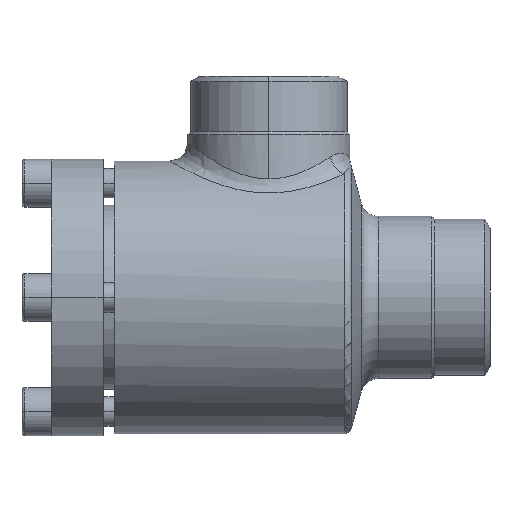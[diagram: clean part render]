
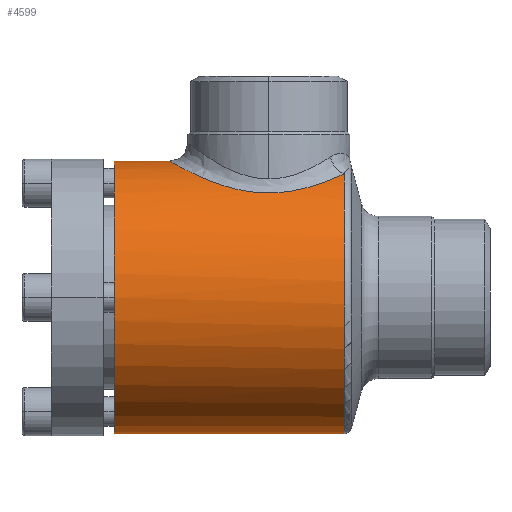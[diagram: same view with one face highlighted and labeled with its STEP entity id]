
A CAD part, left-side view. The second image highlights one B-rep face of the part: STEP entity #4599.
In plain terms, the highlighted cylindrical face has radius 37 mm (diameter 74 mm), a partial arc.
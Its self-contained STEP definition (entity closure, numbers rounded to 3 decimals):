
#670 = VERTEX_POINT ( 'NONE', #5043 ) ;
#1827 = VERTEX_POINT ( 'NONE', #3505 ) ;
#2028 = EDGE_CURVE ( 'NONE', #6871, #1827, #3735, .T. ) ;
#3195 = EDGE_CURVE ( 'NONE', #1827, #670, #5442, .T. ) ;
#3349 = ORIENTED_EDGE ( 'NONE', *, *, #3195, .F. ) ;
#3482 = CARTESIAN_POINT ( 'NONE',  ( 0., -15., 37. ) ) ;
#3505 = CARTESIAN_POINT ( 'NONE',  ( 0., 0., -37. ) ) ;
#3721 = LINE ( 'NONE', #3722, #3723 ) ;
#3722 = CARTESIAN_POINT ( 'NONE',  ( 0., -68., 37. ) ) ;
#3723 = VECTOR ( 'NONE', #3724, 1000. ) ;
#3724 = DIRECTION ( 'NONE',  ( 0., 1., 0. ) ) ;
#3735 = LINE ( 'NONE', #3736, #3737 ) ;
#3736 = CARTESIAN_POINT ( 'NONE',  ( 0., -68., -37. ) ) ;
#3737 = VECTOR ( 'NONE', #3738, 1000. ) ;
#3738 = DIRECTION ( 'NONE',  ( 0., 1., 0. ) ) ;
#3820 = ORIENTED_EDGE ( 'NONE', *, *, #12464, .T. ) ;
#3847 = B_SPLINE_CURVE_WITH_KNOTS ( 'NONE', 3,
 ( #3848, #3849, #3850, #3851, #3852, #3855, #3856, #3857, #3858, #3859, #3860, #3861, #3862, #3863, #3864, #3865, #3866, #3867, #3868, #3869, #3870, #3872, #3873, #3874, #3875, #3876, #3877, #3878, #3879, #3880, #3881, #3882, #3883, #3884, #3885, #3886, #3887, #3888, #3889, #3890, #3891, #3892, #3893, #3894, #3895, #3896, #3897, #3898 ),
 .UNSPECIFIED., .F., .F.,
 ( 4, 2, 2, 2, 2, 2, 2, 2, 2, 2, 2, 2, 2, 2, 2, 2, 2, 2, 2, 2, 2, 2, 2, 4 ),
 ( 0., 0.004, 0.008, 0.01, 0.012, 0.016, 0.018, 0.02, 0.024, 0.026, 0.028, 0.03, 0.032, 0.036, 0.04, 0.042, 0.044, 0.048, 0.05, 0.052, 0.056, 0.058, 0.06, 0.064 ),
 .UNSPECIFIED. ) ;
#3848 = CARTESIAN_POINT ( 'NONE',  ( -15.535, -62.446, 33.581 ) ) ;
#3849 = CARTESIAN_POINT ( 'NONE',  ( -16.452, -61.548, 33.157 ) ) ;
#3850 = CARTESIAN_POINT ( 'NONE',  ( -17.286, -60.594, 32.725 ) ) ;
#3851 = CARTESIAN_POINT ( 'NONE',  ( -18.811, -58.577, 31.873 ) ) ;
#3852 = CARTESIAN_POINT ( 'NONE',  ( -19.502, -57.514, 31.452 ) ) ;
#3855 = CARTESIAN_POINT ( 'NONE',  ( -20.434, -55.835, 30.848 ) ) ;
#3856 = CARTESIAN_POINT ( 'NONE',  ( -20.728, -55.259, 30.65 ) ) ;
#3857 = CARTESIAN_POINT ( 'NONE',  ( -21.277, -54.088, 30.272 ) ) ;
#3858 = CARTESIAN_POINT ( 'NONE',  ( -21.531, -53.494, 30.092 ) ) ;
#3859 = CARTESIAN_POINT ( 'NONE',  ( -22.233, -51.685, 29.581 ) ) ;
#3860 = CARTESIAN_POINT ( 'NONE',  ( -22.624, -50.442, 29.28 ) ) ;
#3861 = CARTESIAN_POINT ( 'NONE',  ( -23.09, -48.518, 28.912 ) ) ;
#3862 = CARTESIAN_POINT ( 'NONE',  ( -23.225, -47.864, 28.803 ) ) ;
#3863 = CARTESIAN_POINT ( 'NONE',  ( -23.453, -46.548, 28.618 ) ) ;
#3864 = CARTESIAN_POINT ( 'NONE',  ( -23.545, -45.887, 28.542 ) ) ;
#3865 = CARTESIAN_POINT ( 'NONE',  ( -23.756, -43.897, 28.367 ) ) ;
#3866 = CARTESIAN_POINT ( 'NONE',  ( -23.81, -42.56, 28.321 ) ) ;
#3867 = CARTESIAN_POINT ( 'NONE',  ( -23.758, -40.538, 28.365 ) ) ;
#3868 = CARTESIAN_POINT ( 'NONE',  ( -23.718, -39.862, 28.398 ) ) ;
#3869 = CARTESIAN_POINT ( 'NONE',  ( -23.596, -38.528, 28.5 ) ) ;
#3870 = CARTESIAN_POINT ( 'NONE',  ( -23.513, -37.867, 28.569 ) ) ;
#3872 = CARTESIAN_POINT ( 'NONE',  ( -23.304, -36.555, 28.739 ) ) ;
#3873 = CARTESIAN_POINT ( 'NONE',  ( -23.179, -35.905, 28.84 ) ) ;
#3874 = CARTESIAN_POINT ( 'NONE',  ( -22.886, -34.615, 29.073 ) ) ;
#3875 = CARTESIAN_POINT ( 'NONE',  ( -22.718, -33.974, 29.205 ) ) ;
#3876 = CARTESIAN_POINT ( 'NONE',  ( -22.153, -32.08, 29.639 ) ) ;
#3877 = CARTESIAN_POINT ( 'NONE',  ( -21.7, -30.866, 29.975 ) ) ;
#3878 = CARTESIAN_POINT ( 'NONE',  ( -20.645, -28.526, 30.712 ) ) ;
#3879 = CARTESIAN_POINT ( 'NONE',  ( -20.043, -27.4, 31.112 ) ) ;
#3880 = CARTESIAN_POINT ( 'NONE',  ( -19.02, -25.773, 31.74 ) ) ;
#3881 = CARTESIAN_POINT ( 'NONE',  ( -18.66, -25.243, 31.953 ) ) ;
#3882 = CARTESIAN_POINT ( 'NONE',  ( -17.908, -24.217, 32.381 ) ) ;
#3883 = CARTESIAN_POINT ( 'NONE',  ( -17.515, -23.72, 32.595 ) ) ;
#3884 = CARTESIAN_POINT ( 'NONE',  ( -16.284, -22.274, 33.237 ) ) ;
#3885 = CARTESIAN_POINT ( 'NONE',  ( -15.395, -21.372, 33.662 ) ) ;
#3886 = CARTESIAN_POINT ( 'NONE',  ( -13.943, -20.115, 34.276 ) ) ;
#3887 = CARTESIAN_POINT ( 'NONE',  ( -13.437, -19.71, 34.478 ) ) ;
#3888 = CARTESIAN_POINT ( 'NONE',  ( -12.398, -18.947, 34.865 ) ) ;
#3889 = CARTESIAN_POINT ( 'NONE',  ( -11.864, -18.588, 35.051 ) ) ;
#3890 = CARTESIAN_POINT ( 'NONE',  ( -10.215, -17.575, 35.581 ) ) ;
#3891 = CARTESIAN_POINT ( 'NONE',  ( -9.054, -16.989, 35.897 ) ) ;
#3892 = CARTESIAN_POINT ( 'NONE',  ( -7.207, -16.258, 36.297 ) ) ;
#3893 = CARTESIAN_POINT ( 'NONE',  ( -6.575, -16.041, 36.417 ) ) ;
#3894 = CARTESIAN_POINT ( 'NONE',  ( -5.29, -15.666, 36.626 ) ) ;
#3895 = CARTESIAN_POINT ( 'NONE',  ( -4.64, -15.508, 36.714 ) ) ;
#3896 = CARTESIAN_POINT ( 'NONE',  ( -2.677, -15.129, 36.926 ) ) ;
#3897 = CARTESIAN_POINT ( 'NONE',  ( -1.349, -15., 37. ) ) ;
#3898 = CARTESIAN_POINT ( 'NONE',  ( 0., -15., 37. ) ) ;
#4096 = FACE_OUTER_BOUND ( 'NONE', #4588, .T. ) ;
#4097 = CYLINDRICAL_SURFACE ( 'NONE', #4098, 37. ) ;
#4098 = AXIS2_PLACEMENT_3D ( 'NONE', #4099, #4100, #4101 ) ;
#4099 = CARTESIAN_POINT ( 'NONE',  ( 0., -68., 0. ) ) ;
#4100 = DIRECTION ( 'NONE',  ( 0., 1., 0. ) ) ;
#4101 = DIRECTION ( 'NONE',  ( 0., 0., 1. ) ) ;
#4288 = EDGE_CURVE ( 'NONE', #4504, #12260, #3847, .T. ) ;
#4482 = ORIENTED_EDGE ( 'NONE', *, *, #4288, .T. ) ;
#4504 = VERTEX_POINT ( 'NONE', #5097 ) ;
#4513 = EDGE_CURVE ( 'NONE', #6871, #4504, #5336, .T. ) ;
#4531 = ORIENTED_EDGE ( 'NONE', *, *, #4513, .T. ) ;
#4562 = ORIENTED_EDGE ( 'NONE', *, *, #2028, .F. ) ;
#4588 = EDGE_LOOP ( 'NONE', ( #4562, #4531, #4482, #3820, #3349 ) ) ;
#4599 = ADVANCED_FACE ( 'NONE', ( #4096 ), #4097, .T. ) ;
#5043 = CARTESIAN_POINT ( 'NONE',  ( 0., 0., 37. ) ) ;
#5083 = CARTESIAN_POINT ( 'NONE',  ( 0., -62.446, -37. ) ) ;
#5097 = CARTESIAN_POINT ( 'NONE',  ( -15.535, -62.446, 33.581 ) ) ;
#5336 = CIRCLE ( 'NONE', #5337, 37. ) ;
#5337 = AXIS2_PLACEMENT_3D ( 'NONE', #5338, #5339, #5340 ) ;
#5338 = CARTESIAN_POINT ( 'NONE',  ( 0., -62.446, 0. ) ) ;
#5339 = DIRECTION ( 'NONE',  ( 0., 1., 0. ) ) ;
#5340 = DIRECTION ( 'NONE',  ( 0., 0., -1. ) ) ;
#5442 = CIRCLE ( 'NONE', #5443, 37. ) ;
#5443 = AXIS2_PLACEMENT_3D ( 'NONE', #5444, #5445, #5446 ) ;
#5444 = CARTESIAN_POINT ( 'NONE',  ( 0., 0., 0. ) ) ;
#5445 = DIRECTION ( 'NONE',  ( 0., 1., 0. ) ) ;
#5446 = DIRECTION ( 'NONE',  ( 0., 0., 1. ) ) ;
#6871 = VERTEX_POINT ( 'NONE', #5083 ) ;
#12260 = VERTEX_POINT ( 'NONE', #3482 ) ;
#12464 = EDGE_CURVE ( 'NONE', #12260, #670, #3721, .T. ) ;
